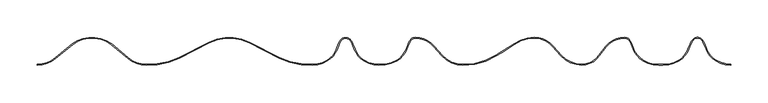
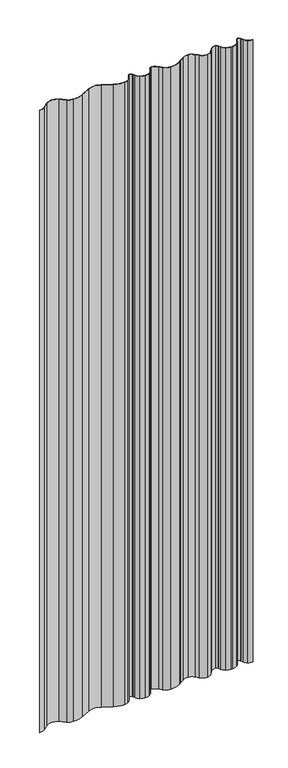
"""IFC4 building model written with IfcOpenShell, lengths in millimetres: plate geometry, Ritmica Vertical 928 : Ritmica Vertical 928."""

from ifc_helpers import new_model, si_unit, frame, origin, place, context, project, spatial, polyline, circle_curve, source, transform, mapped, element, save
from ifc_brep_helpers import plane_surface, cylinder_surface, revolved_surface, advanced_brep


def plate_2c54484f(model_context):
    return source(origin(), model_context, "Body", "AdvancedBrep", [
        advanced_brep(
        [(444.4302446, 6.5092452, 2859.2009216), (431.9836286, 21.2620905, 2859.2009216), (429.1046615, 28.4575337, 2859.2009216), (427.4452979, 31.9226201, 2859.2009216), (411.4637013, 31.9284371, 2859.2009216), (409.8018157, 28.4645596, 2859.2009216), (406.9176114, 21.271214, 2859.2009216), (394.4602592, 6.5274333, 2859.2009216), (373.3665492, 0.7421636, 2859.2009216), (368.0278773, 0.7421636, 2859.2009216), (346.9383844, 6.5447303, 2859.2009216), (334.4917684, 21.2975755, 2859.2009216), (331.6128013, 28.4930188, 2859.2009216), (329.9534377, 31.9581052, 2859.2009216), (321.9644706, 36.992141, 2859.2009216), (296.9888452, 24.9656023, 2859.2009216), (287.4386892, 12.9828793, 2859.2009216), (264.9602063, 1.004862, 2859.2009216), (237.4962028, 13.0090371, 2859.2009216), (226.3924296, 24.9992776, 2859.2009216), (201.4255657, 37.0439944, 2859.2009216), (174.6923281, 28.6299834, 2859.2009216), (157.3593244, 17.4991286, 2859.2009216), (149.9257866, 13.1042873, 2859.2009216), (105.747615, 0.9217598, 2859.2009216), (78.2836116, 12.9259348, 2859.2009216), (67.1798385, 24.9161752, 2859.2009216), (42.2097646, 36.9608925, 2859.2009216), (34.2203451, 31.9326734, 2859.2009216), (32.5584593, 28.4687956, 2859.2009216), (29.674242, 21.2754179, 2859.2009216), (17.2169044, 6.5316705, 2859.2009216), (-6.5461114, 0.8337401, 2859.2009216), (-26.0848579, 6.3430017, 2859.2009216), (-38.5314739, 21.0958469, 2859.2009216), (-41.410441, 28.2912902, 2859.2009216), (-43.0698047, 31.7563766, 2859.2009216), (-59.0514012, 31.7621935, 2859.2009216), (-60.7132869, 28.298316, 2859.2009216), (-63.5974912, 21.1049705, 2859.2009216), (-76.0548434, 6.3611897, 2859.2009216), (-95.5975949, 0.8661531, 2859.2009216), (-139.3425473, 10.0476548, 2859.2009216), (-179.8736188, 30.4443215, 2859.2009216), (-233.7774888, 30.4639414, 2859.2009216), (-274.3233975, 10.0967851, 2859.2009216), (-318.0750221, 0.9471304, 2859.2009216), (-341.83917, 9.5589915, 2859.2009216), (-364.2633956, 28.2547827, 2859.2009216), (-417.1208498, 28.2740218, 2859.2009216), (-439.8609935, 9.5945594, 2859.2009216), (-463.6317682, 1.0000001, 2859.2009216), (-463.6317682, 0.0, 2859.2009216), (-439.2211878, 8.8260227, 2859.2009216), (-416.5014094, 27.488531, 2859.2009216), (-364.8834077, 27.4697431, 2859.2009216), (-342.479535, 8.7909208, 2859.2009216), (-318.0931528, -0.0528589, 2859.2009216), (-273.882295, 9.1992862, 2859.2009216), (-233.3286151, 29.5703462, 2859.2009216), (-180.3231429, 29.5510533, 2859.2009216), (-139.7843031, 9.1504773, 2859.2009216), (-95.5801931, -0.1338492, 2859.2009216), (-75.5333761, 5.5079185, 2859.2009216), (-62.6692321, 20.7330361, 2859.2009216), (-59.7974032, 27.8955168, 2859.2009216), (-58.1497994, 31.3296266, 2859.2009216), (-43.9717211, 31.324466, 2859.2009216), (-42.3266177, 27.8891578, 2859.2009216), (-39.4600035, 20.7245884, 2859.2009216), (-26.6069462, 5.4901103, 2859.2009216), (-6.5788504, -0.1662344, 2859.2009216), (17.7328786, 5.6750431, 2859.2009216), (30.6024869, 20.9034484, 2859.2009216), (33.4743429, 28.0659964, 2859.2009216), (35.1219469, 31.5001063, 2859.2009216), (42.2097628, 35.9608925, 2859.2009216), (66.4203948, 24.2645007, 2859.2009216), (77.5499027, 12.2464708, 2859.2009216), (105.7362544, -0.0782346, 2859.2009216), (150.4460781, 12.2501965, 2859.2009216), (157.8841427, 16.6477141, 2859.2009216), (175.2477974, 27.7982523, 2859.2009216), (201.4270073, 36.0439937, 2859.2009216), (225.6330756, 24.3475061, 2859.2009216), (236.7624939, 12.3295731, 2859.2009216), (264.9598423, 0.0048621, 2859.2009216), (288.2459339, 12.3912758, 2859.2009216), (297.7708595, 24.3423418, 2859.2009216), (321.9641067, 35.9921411, 2859.2009216), (329.0515212, 31.5261946, 2859.2009216), (330.6966247, 28.0908864, 2859.2009216), (333.5638307, 20.9248377, 2859.2009216), (346.4204051, 5.6893005, 2859.2009216), (368.0275134, -0.2558932, 2859.2009216), (373.3663683, -0.2578364, 2859.2009216), (394.9762369, 5.6708079, 2859.2009216), (407.8458704, 20.8992797, 2859.2009216), (410.7176994, 28.0617603, 2859.2009216), (412.3653031, 31.4958701, 2859.2009216), (426.5433815, 31.4907096, 2859.2009216), (428.1884849, 28.0554013, 2859.2009216), (431.0550991, 20.8908319, 2859.2009216), (443.9081563, 5.6563538, 2859.2009216), (463.9686268, -1.63e-05, 2859.2009216), (463.9686268, 0.9999838, 2859.2009216), (444.4302446, 6.5092452, 0.0), (463.9686268, 0.9999838, 0.0), (463.9686268, -1.63e-05, 0.0), (443.9081563, 5.6563538, 0.0), (431.0550991, 20.8908319, 0.0), (428.1884849, 28.0554013, 0.0), (426.5433815, 31.4907096, 0.0), (412.3653031, 31.4958701, 0.0), (410.7176994, 28.0617603, 0.0), (407.8458704, 20.8992797, 0.0), (394.9762369, 5.6708079, 0.0), (373.3663683, -0.2578364, 0.0), (368.0278773, -0.2578364, 0.0), (346.4204051, 5.6893005, 0.0), (333.5638307, 20.9248377, 0.0), (330.6966247, 28.0908864, 0.0), (329.0515212, 31.5261946, 0.0), (321.9641067, 35.9921411, 0.0), (297.7708595, 24.3423418, 0.0), (288.2459339, 12.3912758, 0.0), (264.9598423, 0.0048621, 0.0), (236.7624939, 12.3295731, 0.0), (225.6330756, 24.3475061, 0.0), (201.4270073, 36.0439937, 0.0), (175.2477974, 27.7982523, 0.0), (157.8841427, 16.6477141, 0.0), (150.4460781, 12.2501965, 0.0), (105.7362544, -0.0782346, 0.0), (77.5499027, 12.2464708, 0.0), (66.4203948, 24.2645007, 0.0), (42.2097628, 35.9608925, 0.0), (35.1219469, 31.5001063, 0.0), (33.4743429, 28.0659964, 0.0), (30.6024869, 20.9034484, 0.0), (17.7328786, 5.6750431, 0.0), (-6.5788504, -0.1662344, 0.0), (-26.6069462, 5.4901103, 0.0), (-39.4600035, 20.7245884, 0.0), (-42.3266177, 27.8891578, 0.0), (-43.9717211, 31.324466, 0.0), (-58.1497994, 31.3296266, 0.0), (-59.7974032, 27.8955168, 0.0), (-62.6692321, 20.7330361, 0.0), (-75.5333761, 5.5079185, 0.0), (-95.5801931, -0.1338492, 0.0), (-139.7843031, 9.1504773, 0.0), (-180.3231429, 29.5510533, 0.0), (-233.3286151, 29.5703462, 0.0), (-273.882295, 9.1992862, 0.0), (-318.0931528, -0.0528589, 0.0), (-342.479535, 8.7909208, 0.0), (-364.8834077, 27.4697431, 0.0), (-416.5014094, 27.488531, 0.0), (-439.2211878, 8.8260227, 0.0), (-463.6317682, 0.0, 0.0), (-463.6317682, 1.0000001, 0.0), (-439.8609935, 9.5945594, 0.0), (-417.1208498, 28.2740218, 0.0), (-364.2633956, 28.2547827, 0.0), (-341.83917, 9.5589915, 0.0), (-318.0750221, 0.9471304, 0.0), (-274.3233975, 10.0967851, 0.0), (-233.7774888, 30.4639414, 0.0), (-179.8736188, 30.4443215, 0.0), (-139.3425473, 10.0476548, 0.0), (-95.5975949, 0.8661531, 0.0), (-76.0548434, 6.3611897, 0.0), (-63.5974912, 21.1049705, 0.0), (-60.7132869, 28.298316, 0.0), (-59.0514012, 31.7621935, 0.0), (-43.0698047, 31.7563766, 0.0), (-41.410441, 28.2912902, 0.0), (-38.5314739, 21.0958469, 0.0), (-26.0848579, 6.3430017, 0.0), (-6.5461114, 0.8337401, 0.0), (17.2169044, 6.5316705, 0.0), (29.674242, 21.2754179, 0.0), (32.5584593, 28.4687956, 0.0), (34.2203451, 31.9326734, 0.0), (42.2097646, 36.9608925, 0.0), (67.1798385, 24.9161752, 0.0), (78.2836116, 12.9259348, 0.0), (105.747615, 0.9217598, 0.0), (149.9257866, 13.1042873, 0.0), (157.3593244, 17.4991286, 0.0), (174.6923281, 28.6299834, 0.0), (201.4255657, 37.0439944, 0.0), (226.3924296, 24.9992776, 0.0), (237.4962028, 13.0090371, 0.0), (264.9602063, 1.004862, 0.0), (287.4386892, 12.9828793, 0.0), (296.9888452, 24.9656023, 0.0), (321.9644706, 36.992141, 0.0), (329.9534377, 31.9581052, 0.0), (331.6128013, 28.4930188, 0.0), (334.4917684, 21.2975755, 0.0), (346.9383844, 6.5447303, 0.0), (368.0278773, 0.7441067, 0.0), (373.3665492, 0.7421636, 0.0), (394.4602592, 6.5274333, 0.0), (406.9176114, 21.271214, 0.0), (409.8018157, 28.4645596, 0.0), (411.4637013, 31.9284371, 0.0), (427.4452979, 31.9226201, 0.0), (429.1046615, 28.4575337, 0.0), (431.9836286, 21.2620905, 0.0)],
        [
            (0, 1, circle_curve(frame((460.4148551, 32.6219475, 2859.2009216), z_axis=(0.0, 0.0, -1.0), x_axis=(1.0, 0.0, 0.0)), 30.6166783)),
            (1, 2),
            (2, 3),
            (3, 4, circle_curve(frame((419.4531055, 28.095312, 2859.2009216), z_axis=(0.0, 0.0, 1.0), x_axis=(1.0, 0.0, 0.0)), 8.8613445)),
            (4, 5),
            (5, 6),
            (6, 7, circle_curve(frame((378.4946619, 32.6517648, 2859.2009216), z_axis=(0.0, 0.0, -1.0), x_axis=(1.0, 0.0, 0.0)), 30.6166783)),
            (7, 8, circle_curve(frame((373.381579, 42.0349557, 2859.2009216), z_axis=(0.0, 0.0, -1.0), x_axis=(1.0, 0.0, 0.0)), 41.2927949)),
            (8, 9),
            (9, 10, circle_curve(frame((368.0429071, 42.0368989, 2859.2009216), z_axis=(0.0, 0.0, -1.0), x_axis=(1.0, 0.0, 0.0)), 41.2927949)),
            (10, 11, circle_curve(frame((363.1637949, 32.8605896, 2859.2009216), z_axis=(0.0, 0.0, -1.0), x_axis=(1.0, 0.0, 0.0)), 30.9158276)),
            (11, 12),
            (12, 13),
            (13, 14, circle_curve(frame((321.9612453, 28.130797, 2859.2009216), z_axis=(0.0, 0.0, 1.0), x_axis=(1.0, 0.0, 0.0)), 8.8613445)),
            (14, 15, circle_curve(frame((321.9528514, 5.069444, 2859.2009216), z_axis=(0.0, 0.0, 1.0), x_axis=(1.0, 0.0, 0.0)), 31.9226992)),
            (15, 16),
            (16, 17, circle_curve(frame((264.9700565, 28.0674484, 2859.2009216), z_axis=(0.0, 0.0, -1.0), x_axis=(1.0, 0.0, 0.0)), 27.0625882)),
            (17, 18, circle_curve(frame((264.9738374, 38.455184, 2859.2009216), z_axis=(0.0, 0.0, -1.0), x_axis=(1.0, 0.0, 0.0)), 37.4503244)),
            (18, 19),
            (19, 20, circle_curve(frame((201.4139464, 5.1212973, 2859.2009216), z_axis=(0.0, 0.0, 1.0), x_axis=(1.0, 0.0, 0.0)), 31.9226992)),
            (20, 21, circle_curve(frame((201.5791622, -10.119828, 2859.2009216), z_axis=(0.0, 0.0, 1.0), x_axis=(1.0, 0.0, 0.0)), 47.1640725)),
            (21, 22),
            (22, 23),
            (23, 24, circle_curve(frame((107.5247522, 80.6713634, 2859.2009216), z_axis=(0.0, 0.0, -1.0), x_axis=(1.0, 0.0, 0.0)), 79.769402)),
            (24, 25, circle_curve(frame((105.7612462, 38.3720817, 2859.2009216), z_axis=(0.0, 0.0, -1.0), x_axis=(1.0, 0.0, 0.0)), 37.4503244)),
            (25, 26),
            (26, 27, circle_curve(frame((42.2097086, 5.0555108, 2859.2009216), z_axis=(0.0, 0.0, 1.0), x_axis=(1.0, 0.0, 0.0)), 31.9053816)),
            (27, 28, circle_curve(frame((42.209749, 28.099548, 2859.2009216), z_axis=(0.0, 0.0, 1.0), x_axis=(1.0, 0.0, 0.0)), 8.8613444)),
            (28, 29),
            (29, 30),
            (30, 31, circle_curve(frame((1.2513055, 32.656001, 2859.2009216), z_axis=(0.0, 0.0, -1.0), x_axis=(1.0, 0.0, 0.0)), 30.6166783)),
            (31, 32, circle_curve(frame((-3.8617775, 42.0391919, 2859.2009216), z_axis=(0.0, 0.0, -1.0), x_axis=(1.0, 0.0, 0.0)), 41.2927948)),
            (32, 33, circle_curve(frame((-6.5324806, 38.2840621, 2859.2009216), z_axis=(0.0, 0.0, -1.0), x_axis=(1.0, 0.0, 0.0)), 37.4503244)),
            (33, 34, circle_curve(frame((-10.1002475, 32.4557039, 2859.2009216), z_axis=(0.0, 0.0, -1.0), x_axis=(1.0, 0.0, 0.0)), 30.6166783)),
            (34, 35),
            (35, 36),
            (36, 37, circle_curve(frame((-51.0619971, 27.9290684, 2859.2009216), z_axis=(0.0, 0.0, 1.0), x_axis=(1.0, 0.0, 0.0)), 8.8613445)),
            (37, 38),
            (38, 39),
            (39, 40, circle_curve(frame((-92.0204406, 32.4855212, 2859.2009216), z_axis=(0.0, 0.0, -1.0), x_axis=(1.0, 0.0, 0.0)), 30.6166783)),
            (40, 41, circle_curve(frame((-95.5839638, 38.316475, 2859.2009216), z_axis=(0.0, 0.0, -1.0), x_axis=(1.0, 0.0, 0.0)), 37.4503244)),
            (41, 42, circle_curve(frame((-98.8645428, 94.1023106, 2859.2009216), z_axis=(0.0, 0.0, -1.0), x_axis=(1.0, 0.0, 0.0)), 93.293376)),
            (42, 43),
            (43, 44, circle_curve(frame((-206.8450653, -23.1517705, 2859.2009216), z_axis=(0.0, 0.0, 1.0), x_axis=(1.0, 0.0, 0.0)), 60.0)),
            (44, 45),
            (45, 46, circle_curve(frame((-314.7402029, 94.180885, 2859.2009216), z_axis=(0.0, 0.0, -1.0), x_axis=(1.0, 0.0, 0.0)), 93.293376)),
            (46, 47, circle_curve(frame((-318.061507, 38.0785482, 2859.2009216), z_axis=(0.0, 0.0, -1.0), x_axis=(1.0, 0.0, 0.0)), 37.1314203)),
            (47, 48),
            (48, 49, circle_curve(frame((-390.7049909, -7.0897704, 2859.2009216), z_axis=(0.0, 0.0, 1.0), x_axis=(1.0, 0.0, 0.0)), 44.1406321)),
            (49, 50),
            (50, 51, circle_curve(frame((-463.6178891, 38.1314178, 2859.2009216), z_axis=(0.0, 0.0, -1.0), x_axis=(1.0, 0.0, 0.0)), 37.1314203)),
            (51, 52),
            (52, 53, circle_curve(frame((-463.6178891, 38.1314178, 2859.2009216), z_axis=(0.0, 0.0, 1.0), x_axis=(1.0, 0.0, 0.0)), 38.1314203)),
            (53, 54),
            (54, 55, circle_curve(frame((-390.7049909, -7.0897704, 2859.2009216), z_axis=(0.0, 0.0, -1.0), x_axis=(1.0, 0.0, 0.0)), 43.1406321)),
            (55, 56),
            (56, 57, circle_curve(frame((-318.061507, 38.0785482, 2859.2009216), z_axis=(0.0, 0.0, 1.0), x_axis=(1.0, 0.0, 0.0)), 38.1314203)),
            (57, 58, circle_curve(frame((-314.7402029, 94.180885, 2859.2009216), z_axis=(0.0, 0.0, 1.0), x_axis=(1.0, 0.0, 0.0)), 94.293376)),
            (58, 59),
            (59, 60, circle_curve(frame((-206.8450653, -23.1517705, 2859.2009216), z_axis=(0.0, 0.0, -1.0), x_axis=(1.0, 0.0, 0.0)), 59.0)),
            (60, 61),
            (61, 62, circle_curve(frame((-98.8645428, 94.1023106, 2859.2009216), z_axis=(0.0, 0.0, 1.0), x_axis=(1.0, 0.0, 0.0)), 94.293376)),
            (62, 63, circle_curve(frame((-95.5839638, 38.316475, 2859.2009216), z_axis=(0.0, 0.0, 1.0), x_axis=(1.0, 0.0, 0.0)), 38.4503244)),
            (63, 64, circle_curve(frame((-92.0204406, 32.4855212, 2859.2009216), z_axis=(0.0, 0.0, 1.0), x_axis=(1.0, 0.0, 0.0)), 31.6166783)),
            (64, 65),
            (65, 66),
            (66, 67, circle_curve(frame((-51.0619971, 27.9290684, 2859.2009216), z_axis=(0.0, 0.0, -1.0), x_axis=(1.0, 0.0, 0.0)), 7.8613445)),
            (67, 68),
            (68, 69),
            (69, 70, circle_curve(frame((-10.1002475, 32.4557039, 2859.2009216), z_axis=(0.0, 0.0, 1.0), x_axis=(1.0, 0.0, 0.0)), 31.6166783)),
            (70, 71, circle_curve(frame((-6.5324806, 38.2840621, 2859.2009216), z_axis=(0.0, 0.0, 1.0), x_axis=(1.0, 0.0, 0.0)), 38.4503244)),
            (71, 72, circle_curve(frame((-3.8617775, 42.0391919, 2859.2009216), z_axis=(0.0, 0.0, 1.0), x_axis=(1.0, 0.0, 0.0)), 42.2927948)),
            (72, 73, circle_curve(frame((1.2513055, 32.656001, 2859.2009216), z_axis=(0.0, 0.0, 1.0), x_axis=(1.0, 0.0, 0.0)), 31.6166782)),
            (73, 74),
            (74, 75),
            (75, 76, circle_curve(frame((42.209749, 28.099548, 2859.2009216), z_axis=(0.0, 0.0, -1.0), x_axis=(1.0, 0.0, 0.0)), 7.8613444)),
            (76, 77, circle_curve(frame((42.2097086, 5.0555108, 2859.2009216), z_axis=(0.0, 0.0, -1.0), x_axis=(1.0, 0.0, 0.0)), 30.9053816)),
            (77, 78),
            (78, 79, circle_curve(frame((105.7612462, 38.3720817, 2859.2009216), z_axis=(0.0, 0.0, 1.0), x_axis=(1.0, 0.0, 0.0)), 38.4503244)),
            (79, 80, circle_curve(frame((107.5247522, 80.6713634, 2859.2009216), z_axis=(0.0, 0.0, 1.0), x_axis=(1.0, 0.0, 0.0)), 80.769402)),
            (80, 81),
            (81, 82),
            (82, 83, circle_curve(frame((201.5791622, -10.119828, 2859.2009216), z_axis=(0.0, 0.0, -1.0), x_axis=(1.0, 0.0, 0.0)), 46.1640725)),
            (83, 84, circle_curve(frame((201.4139464, 5.1212973, 2859.2009216), z_axis=(0.0, 0.0, -1.0), x_axis=(1.0, 0.0, 0.0)), 30.9226992)),
            (84, 85),
            (85, 86, circle_curve(frame((264.9738374, 38.455184, 2859.2009216), z_axis=(0.0, 0.0, 1.0), x_axis=(1.0, 0.0, 0.0)), 38.4503244)),
            (86, 87, circle_curve(frame((264.9700565, 28.0674484, 2859.2009216), z_axis=(0.0, 0.0, 1.0), x_axis=(1.0, 0.0, 0.0)), 28.0625882)),
            (87, 88),
            (88, 89, circle_curve(frame((321.9528514, 5.069444, 2859.2009216), z_axis=(0.0, 0.0, -1.0), x_axis=(1.0, 0.0, 0.0)), 30.9226992)),
            (89, 90, circle_curve(frame((321.9612453, 28.130797, 2859.2009216), z_axis=(0.0, 0.0, -1.0), x_axis=(1.0, 0.0, 0.0)), 7.8613445)),
            (90, 91),
            (91, 92),
            (92, 93, circle_curve(frame((363.1637949, 32.8605896, 2859.2009216), z_axis=(0.0, 0.0, 1.0), x_axis=(1.0, 0.0, 0.0)), 31.9158276)),
            (93, 94, circle_curve(frame((368.0429071, 42.0368989, 2859.2009216), z_axis=(0.0, 0.0, 1.0), x_axis=(1.0, 0.0, 0.0)), 42.2927949)),
            (94, 95),
            (95, 96, circle_curve(frame((373.381579, 42.0349557, 2859.2009216), z_axis=(0.0, 0.0, 1.0), x_axis=(1.0, 0.0, 0.0)), 42.2927949)),
            (96, 97, circle_curve(frame((378.4946619, 32.6517648, 2859.2009216), z_axis=(0.0, 0.0, 1.0), x_axis=(1.0, 0.0, 0.0)), 31.6166783)),
            (97, 98),
            (98, 99),
            (99, 100, circle_curve(frame((419.4531055, 28.095312, 2859.2009216), z_axis=(0.0, 0.0, -1.0), x_axis=(1.0, 0.0, 0.0)), 7.8613445)),
            (100, 101),
            (101, 102),
            (102, 103, circle_curve(frame((460.4148551, 32.6219475, 2859.2009216), z_axis=(0.0, 0.0, 1.0), x_axis=(1.0, 0.0, 0.0)), 31.6166783)),
            (103, 104, circle_curve(frame((463.982622, 38.4503056, 2859.2009216), z_axis=(0.0, 0.0, 1.0), x_axis=(1.0, 0.0, 0.0)), 38.4503244)),
            (104, 105),
            (105, 0, circle_curve(frame((463.982622, 38.4503056, 2859.2009216), z_axis=(0.0, 0.0, -1.0), x_axis=(1.0, 0.0, 0.0)), 37.4503244)),
            (106, 107, circle_curve(frame((463.982622, 38.4503056, 0.0), z_axis=(0.0, 0.0, 1.0), x_axis=(1.0, 0.0, 0.0)), 37.4503244)),
            (107, 108),
            (108, 109, circle_curve(frame((463.982622, 38.4503056, 0.0), z_axis=(0.0, 0.0, -1.0), x_axis=(1.0, 0.0, 0.0)), 38.4503244)),
            (109, 110, circle_curve(frame((460.4148551, 32.6219475, 0.0), z_axis=(0.0, 0.0, -1.0), x_axis=(1.0, 0.0, 0.0)), 31.6166783)),
            (110, 111),
            (111, 112),
            (112, 113, circle_curve(frame((419.4531055, 28.095312, 0.0), z_axis=(0.0, 0.0, 1.0), x_axis=(1.0, 0.0, 0.0)), 7.8613445)),
            (113, 114),
            (114, 115),
            (115, 116, circle_curve(frame((378.4946619, 32.6517648, 0.0), z_axis=(0.0, 0.0, -1.0), x_axis=(1.0, 0.0, 0.0)), 31.6166783)),
            (116, 117, circle_curve(frame((373.381579, 42.0349557, 0.0), z_axis=(0.0, 0.0, -1.0), x_axis=(1.0, 0.0, 0.0)), 42.2927949)),
            (117, 118),
            (118, 119, circle_curve(frame((368.0429071, 42.0368989, 0.0), z_axis=(0.0, 0.0, -1.0), x_axis=(1.0, 0.0, 0.0)), 42.2927949)),
            (119, 120, circle_curve(frame((363.1637949, 32.8605896, 0.0), z_axis=(0.0, 0.0, -1.0), x_axis=(1.0, 0.0, 0.0)), 31.9158276)),
            (120, 121),
            (121, 122),
            (122, 123, circle_curve(frame((321.9612453, 28.130797, 0.0), z_axis=(0.0, 0.0, 1.0), x_axis=(1.0, 0.0, 0.0)), 7.8613445)),
            (123, 124, circle_curve(frame((321.9528514, 5.069444, 0.0), z_axis=(0.0, 0.0, 1.0), x_axis=(1.0, 0.0, 0.0)), 30.9226992)),
            (124, 125),
            (125, 126, circle_curve(frame((264.9700565, 28.0674484, 0.0), z_axis=(0.0, 0.0, -1.0), x_axis=(1.0, 0.0, 0.0)), 28.0625882)),
            (126, 127, circle_curve(frame((264.9738374, 38.455184, 0.0), z_axis=(0.0, 0.0, -1.0), x_axis=(1.0, 0.0, 0.0)), 38.4503244)),
            (127, 128),
            (128, 129, circle_curve(frame((201.4139464, 5.1212973, 0.0), z_axis=(0.0, 0.0, 1.0), x_axis=(1.0, 0.0, 0.0)), 30.9226992)),
            (129, 130, circle_curve(frame((201.5791622, -10.119828, 0.0), z_axis=(0.0, 0.0, 1.0), x_axis=(1.0, 0.0, 0.0)), 46.1640725)),
            (130, 131),
            (131, 132),
            (132, 133, circle_curve(frame((107.5247522, 80.6713634, 0.0), z_axis=(0.0, 0.0, -1.0), x_axis=(1.0, 0.0, 0.0)), 80.769402)),
            (133, 134, circle_curve(frame((105.7612462, 38.3720817, 0.0), z_axis=(0.0, 0.0, -1.0), x_axis=(1.0, 0.0, 0.0)), 38.4503244)),
            (134, 135),
            (135, 136, circle_curve(frame((42.2097086, 5.0555108, 0.0), z_axis=(0.0, 0.0, 1.0), x_axis=(1.0, 0.0, 0.0)), 30.9053816)),
            (136, 137, circle_curve(frame((42.209749, 28.099548, 0.0), z_axis=(0.0, 0.0, 1.0), x_axis=(1.0, 0.0, 0.0)), 7.8613444)),
            (137, 138),
            (138, 139),
            (139, 140, circle_curve(frame((1.2513055, 32.656001, 0.0), z_axis=(0.0, 0.0, -1.0), x_axis=(1.0, 0.0, 0.0)), 31.6166782)),
            (140, 141, circle_curve(frame((-3.8617775, 42.0391919, 0.0), z_axis=(0.0, 0.0, -1.0), x_axis=(1.0, 0.0, 0.0)), 42.2927948)),
            (141, 142, circle_curve(frame((-6.5324806, 38.2840621, 0.0), z_axis=(0.0, 0.0, -1.0), x_axis=(1.0, 0.0, 0.0)), 38.4503244)),
            (142, 143, circle_curve(frame((-10.1002475, 32.4557039, 0.0), z_axis=(0.0, 0.0, -1.0), x_axis=(1.0, 0.0, 0.0)), 31.6166783)),
            (143, 144),
            (144, 145),
            (145, 146, circle_curve(frame((-51.0619971, 27.9290684, 0.0), z_axis=(0.0, 0.0, 1.0), x_axis=(1.0, 0.0, 0.0)), 7.8613445)),
            (146, 147),
            (147, 148),
            (148, 149, circle_curve(frame((-92.0204406, 32.4855212, 0.0), z_axis=(0.0, 0.0, -1.0), x_axis=(1.0, 0.0, 0.0)), 31.6166783)),
            (149, 150, circle_curve(frame((-95.5839638, 38.316475, 0.0), z_axis=(0.0, 0.0, -1.0), x_axis=(1.0, 0.0, 0.0)), 38.4503244)),
            (150, 151, circle_curve(frame((-98.8645428, 94.1023106, 0.0), z_axis=(0.0, 0.0, -1.0), x_axis=(1.0, 0.0, 0.0)), 94.293376)),
            (151, 152),
            (152, 153, circle_curve(frame((-206.8450653, -23.1517705, 0.0), z_axis=(0.0, 0.0, 1.0), x_axis=(1.0, 0.0, 0.0)), 59.0)),
            (153, 154),
            (154, 155, circle_curve(frame((-314.7402029, 94.180885, 0.0), z_axis=(0.0, 0.0, -1.0), x_axis=(1.0, 0.0, 0.0)), 94.293376)),
            (155, 156, circle_curve(frame((-318.061507, 38.0785482, 0.0), z_axis=(0.0, 0.0, -1.0), x_axis=(1.0, 0.0, 0.0)), 38.1314203)),
            (156, 157),
            (157, 158, circle_curve(frame((-390.7049909, -7.0897704, 0.0), z_axis=(0.0, 0.0, 1.0), x_axis=(1.0, 0.0, 0.0)), 43.1406321)),
            (158, 159),
            (159, 160, circle_curve(frame((-463.6178891, 38.1314178, 0.0), z_axis=(0.0, 0.0, -1.0), x_axis=(1.0, 0.0, 0.0)), 38.1314203)),
            (160, 161),
            (161, 162, circle_curve(frame((-463.6178891, 38.1314178, 0.0), z_axis=(0.0, 0.0, 1.0), x_axis=(1.0, 0.0, 0.0)), 37.1314203)),
            (162, 163),
            (163, 164, circle_curve(frame((-390.7049909, -7.0897704, 0.0), z_axis=(0.0, 0.0, -1.0), x_axis=(1.0, 0.0, 0.0)), 44.1406321)),
            (164, 165),
            (165, 166, circle_curve(frame((-318.061507, 38.0785482, 0.0), z_axis=(0.0, 0.0, 1.0), x_axis=(1.0, 0.0, 0.0)), 37.1314203)),
            (166, 167, circle_curve(frame((-314.7402029, 94.180885, 0.0), z_axis=(0.0, 0.0, 1.0), x_axis=(1.0, 0.0, 0.0)), 93.293376)),
            (167, 168),
            (168, 169, circle_curve(frame((-206.8450653, -23.1517705, 0.0), z_axis=(0.0, 0.0, -1.0), x_axis=(1.0, 0.0, 0.0)), 60.0)),
            (169, 170),
            (170, 171, circle_curve(frame((-98.8645428, 94.1023106, 0.0), z_axis=(0.0, 0.0, 1.0), x_axis=(1.0, 0.0, 0.0)), 93.293376)),
            (171, 172, circle_curve(frame((-95.5839638, 38.316475, 0.0), z_axis=(0.0, 0.0, 1.0), x_axis=(1.0, 0.0, 0.0)), 37.4503244)),
            (172, 173, circle_curve(frame((-92.0204406, 32.4855212, 0.0), z_axis=(0.0, 0.0, 1.0), x_axis=(1.0, 0.0, 0.0)), 30.6166783)),
            (173, 174),
            (174, 175),
            (175, 176, circle_curve(frame((-51.0619971, 27.9290684, 0.0), z_axis=(0.0, 0.0, -1.0), x_axis=(1.0, 0.0, 0.0)), 8.8613445)),
            (176, 177),
            (177, 178),
            (178, 179, circle_curve(frame((-10.1002475, 32.4557039, 0.0), z_axis=(0.0, 0.0, 1.0), x_axis=(1.0, 0.0, 0.0)), 30.6166783)),
            (179, 180, circle_curve(frame((-6.5324806, 38.2840621, 0.0), z_axis=(0.0, 0.0, 1.0), x_axis=(1.0, 0.0, 0.0)), 37.4503244)),
            (180, 181, circle_curve(frame((-3.8617775, 42.0391919, 0.0), z_axis=(0.0, 0.0, 1.0), x_axis=(1.0, 0.0, 0.0)), 41.2927948)),
            (181, 182, circle_curve(frame((1.2513055, 32.656001, 0.0), z_axis=(0.0, 0.0, 1.0), x_axis=(1.0, 0.0, 0.0)), 30.6166783)),
            (182, 183),
            (183, 184),
            (184, 185, circle_curve(frame((42.209749, 28.099548, 0.0), z_axis=(0.0, 0.0, -1.0), x_axis=(1.0, 0.0, 0.0)), 8.8613444)),
            (185, 186, circle_curve(frame((42.2097086, 5.0555108, 0.0), z_axis=(0.0, 0.0, -1.0), x_axis=(1.0, 0.0, 0.0)), 31.9053816)),
            (186, 187),
            (187, 188, circle_curve(frame((105.7612462, 38.3720817, 0.0), z_axis=(0.0, 0.0, 1.0), x_axis=(1.0, 0.0, 0.0)), 37.4503244)),
            (188, 189, circle_curve(frame((107.5247522, 80.6713634, 0.0), z_axis=(0.0, 0.0, 1.0), x_axis=(1.0, 0.0, 0.0)), 79.769402)),
            (189, 190),
            (190, 191),
            (191, 192, circle_curve(frame((201.5791622, -10.119828, 0.0), z_axis=(0.0, 0.0, -1.0), x_axis=(1.0, 0.0, 0.0)), 47.1640725)),
            (192, 193, circle_curve(frame((201.4139464, 5.1212973, 0.0), z_axis=(0.0, 0.0, -1.0), x_axis=(1.0, 0.0, 0.0)), 31.9226992)),
            (193, 194),
            (194, 195, circle_curve(frame((264.9738374, 38.455184, 0.0), z_axis=(0.0, 0.0, 1.0), x_axis=(1.0, 0.0, 0.0)), 37.4503244)),
            (195, 196, circle_curve(frame((264.9700565, 28.0674484, 0.0), z_axis=(0.0, 0.0, 1.0), x_axis=(1.0, 0.0, 0.0)), 27.0625882)),
            (196, 197),
            (197, 198, circle_curve(frame((321.9528514, 5.069444, 0.0), z_axis=(0.0, 0.0, -1.0), x_axis=(1.0, 0.0, 0.0)), 31.9226992)),
            (198, 199, circle_curve(frame((321.9612453, 28.130797, 0.0), z_axis=(0.0, 0.0, -1.0), x_axis=(1.0, 0.0, 0.0)), 8.8613445)),
            (199, 200),
            (200, 201),
            (201, 202, circle_curve(frame((363.1637949, 32.8605896, 0.0), z_axis=(0.0, 0.0, 1.0), x_axis=(1.0, 0.0, 0.0)), 30.9158276)),
            (202, 203, circle_curve(frame((368.0429071, 42.0368989, 0.0), z_axis=(0.0, 0.0, 1.0), x_axis=(1.0, 0.0, 0.0)), 41.2927949)),
            (203, 204),
            (204, 205, circle_curve(frame((373.381579, 42.0349557, 0.0), z_axis=(0.0, 0.0, 1.0), x_axis=(1.0, 0.0, 0.0)), 41.2927949)),
            (205, 206, circle_curve(frame((378.4946619, 32.6517648, 0.0), z_axis=(0.0, 0.0, 1.0), x_axis=(1.0, 0.0, 0.0)), 30.6166783)),
            (206, 207),
            (207, 208),
            (208, 209, circle_curve(frame((419.4531055, 28.095312, 0.0), z_axis=(0.0, 0.0, -1.0), x_axis=(1.0, 0.0, 0.0)), 8.8613445)),
            (209, 210),
            (210, 211),
            (211, 106, circle_curve(frame((460.4148551, 32.6219475, 0.0), z_axis=(0.0, 0.0, 1.0), x_axis=(1.0, 0.0, 0.0)), 30.6166783)),
            (0, 106),
            (211, 1),
            (210, 2),
            (209, 3),
            (208, 4),
            (207, 5),
            (206, 6),
            (205, 7),
            (204, 8),
            (203, 9),
            (202, 10),
            (201, 11),
            (200, 12),
            (199, 13),
            (198, 14),
            (197, 15),
            (196, 16),
            (195, 17),
            (194, 18),
            (193, 19),
            (192, 20),
            (191, 21),
            (190, 22),
            (189, 23),
            (188, 24),
            (187, 25),
            (186, 26),
            (185, 27),
            (184, 28),
            (183, 29),
            (182, 30),
            (181, 31),
            (180, 32),
            (179, 33),
            (178, 34),
            (177, 35),
            (176, 36),
            (175, 37),
            (174, 38),
            (173, 39),
            (172, 40),
            (171, 41),
            (170, 42),
            (169, 43),
            (168, 44),
            (167, 45),
            (166, 46),
            (165, 47),
            (164, 48),
            (163, 49),
            (162, 50),
            (161, 51),
            (160, 52),
            (159, 53),
            (158, 54),
            (157, 55),
            (156, 56),
            (155, 57),
            (154, 58),
            (153, 59),
            (152, 60),
            (151, 61),
            (150, 62),
            (149, 63),
            (148, 64),
            (147, 65),
            (146, 66),
            (145, 67),
            (144, 68),
            (143, 69),
            (142, 70),
            (141, 71),
            (140, 72),
            (139, 73),
            (138, 74),
            (137, 75),
            (136, 76),
            (135, 77),
            (134, 78),
            (133, 79),
            (132, 80),
            (131, 81),
            (130, 82),
            (129, 83),
            (128, 84),
            (127, 85),
            (126, 86),
            (125, 87),
            (124, 88),
            (123, 89),
            (122, 90),
            (121, 91),
            (120, 92),
            (119, 93),
            (118, 94),
            (117, 95),
            (116, 96),
            (115, 97),
            (114, 98),
            (113, 99),
            (112, 100),
            (111, 101),
            (110, 102),
            (109, 103),
            (108, 104),
            (107, 105),
        ],
        [
            plane_surface(frame((491.0315334, 32.6219475, 2859.2009216), z_axis=(0.0, 0.0, 1.0), x_axis=(0.0, -1.0, 0.0))),
            plane_surface(frame((491.0315334, 32.6219475, 0.0), z_axis=(0.0, 0.0, -1.0), x_axis=(0.0, 1.0, 0.0))),
            revolved_surface(polyline([(491.0315334, 32.6219475, 0.0), (491.0315334, 32.6219475, 2859.2009216)]), (460.4148551, 32.6219475, 0.0), (0.0, 0.0, -1.0)),
            plane_surface(frame((431.9836286, 21.2620905, 2859.2009216), z_axis=(0.9284415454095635, 0.3714785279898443, 0.0), x_axis=(0.0, 0.0, -1.0))),
            plane_surface(frame((429.1046615, 28.4575337, 2859.2009216), z_axis=(0.901916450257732, 0.4319105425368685, 0.0), x_axis=(0.0, 0.0, -1.0))),
            cylinder_surface(frame((419.4531055, 28.095312, 0.0), z_axis=(0.0, 0.0, 1.0), x_axis=(1.0, 0.0, 0.0)), 8.8613445),
            plane_surface(frame((411.4637013, 31.9284371, 2859.2009216), z_axis=(-0.9016017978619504, 0.4325669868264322, 0.0), x_axis=(0.0, 0.0, -1.0))),
            plane_surface(frame((409.8018157, 28.4645596, 2859.2009216), z_axis=(-0.9281708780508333, 0.37215429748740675, 0.0), x_axis=(0.0, 0.0, -1.0))),
            revolved_surface(polyline([(409.1113402, 32.6517648, 0.0), (409.1113402, 32.6517648, 2859.2009216)]), (378.4946619, 32.6517648, 0.0), (0.0, 0.0, -1.0)),
            revolved_surface(polyline([(414.6743739, 42.0349557, 0.0), (414.6743739, 42.0349557, 2859.2009216)]), (373.381579, 42.0349557, 0.0), (0.0, 0.0, -1.0)),
            plane_surface(frame((373.3665492, 0.7421636, 2859.2009216), z_axis=(0.0, 1.0, 0.0), x_axis=(0.0, 0.0, -1.0))),
            revolved_surface(polyline([(409.33570199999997, 42.0368989, 0.0), (409.33570199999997, 42.0368989, 2859.2009216)]), (368.0429071, 42.0368989, 0.0), (0.0, 0.0, -1.0)),
            revolved_surface(polyline([(394.0796225, 32.8605896, 0.0), (394.0796225, 32.8605896, 2859.2009216)]), (363.1637949, 32.8605896, 0.0), (0.0, 0.0, -1.0)),
            plane_surface(frame((334.4917684, 21.2975755, 2859.2009216), z_axis=(0.9284415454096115, 0.37147852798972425, 0.0), x_axis=(0.0, 0.0, -1.0))),
            plane_surface(frame((331.6128013, 28.4930188, 2859.2009216), z_axis=(0.901916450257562, 0.4319105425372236, 0.0), x_axis=(0.0, 0.0, -1.0))),
            cylinder_surface(frame((321.9612453, 28.130797, 0.0), z_axis=(0.0, 0.0, 1.0), x_axis=(1.0, 0.0, 0.0)), 8.8613445),
            cylinder_surface(frame((321.9528514, 5.069444, 0.0), z_axis=(0.0, 0.0, 1.0), x_axis=(1.0, 0.0, 0.0)), 31.9226992),
            plane_surface(frame((296.9888452, 24.9656023, 2859.2009216), z_axis=(-0.7820142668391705, 0.6232605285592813, 0.0), x_axis=(0.0, 0.0, -1.0))),
            revolved_surface(polyline([(292.0326447, 28.0674484, 0.0), (292.0326447, 28.0674484, 2859.2009216)]), (264.9700565, 28.0674484, 0.0), (0.0, 0.0, -1.0)),
            revolved_surface(polyline([(302.4241618, 38.455184, 0.0), (302.4241618, 38.455184, 2859.2009216)]), (264.9738374, 38.455184, 0.0), (0.0, 0.0, -1.0)),
            plane_surface(frame((237.4962028, 13.0090371, 2859.2009216), z_axis=(0.7337088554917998, 0.6794639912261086, 0.0), x_axis=(0.0, 0.0, -1.0))),
            cylinder_surface(frame((201.4139464, 5.1212973, 0.0), z_axis=(0.0, 0.0, 1.0), x_axis=(1.0, 0.0, 0.0)), 31.9226992),
            cylinder_surface(frame((201.5791622, -10.119828, 0.0), z_axis=(0.0, 0.0, 1.0), x_axis=(1.0, 0.0, 0.0)), 47.1640725),
            plane_surface(frame((174.6923281, 28.6299834, 2859.2009216), z_axis=(-0.5403525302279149, 0.8414387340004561, 0.0), x_axis=(0.0, 0.0, -1.0))),
            plane_surface(frame((157.3593244, 17.4991286, 2859.2009216), z_axis=(-0.508926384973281, 0.8608100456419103, 0.0), x_axis=(0.0, 0.0, -1.0))),
            revolved_surface(polyline([(187.29415419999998, 80.6713634, 0.0), (187.29415419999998, 80.6713634, 2859.2009216)]), (107.5247522, 80.6713634, 0.0), (0.0, 0.0, -1.0)),
            revolved_surface(polyline([(143.21157060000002, 38.3720817, 0.0), (143.21157060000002, 38.3720817, 2859.2009216)]), (105.7612462, 38.3720817, 0.0), (0.0, 0.0, -1.0)),
            plane_surface(frame((78.2836116, 12.9259348, 2859.2009216), z_axis=(0.7337088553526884, 0.679463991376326, 0.0), x_axis=(0.0, 0.0, -1.0))),
            cylinder_surface(frame((42.2097086, 5.0555108, 0.0), z_axis=(0.0, 0.0, 1.0), x_axis=(1.0, 0.0, 0.0)), 31.9053816),
            cylinder_surface(frame((42.209749, 28.099548, 0.0), z_axis=(0.0, 0.0, 1.0), x_axis=(1.0, 0.0, 0.0)), 8.8613444),
            plane_surface(frame((34.2203451, 31.9326734, 2859.2009216), z_axis=(-0.901601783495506, 0.4325670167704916, 0.0), x_axis=(0.0, 0.0, -1.0))),
            plane_surface(frame((32.5584593, 28.4687956, 2859.2009216), z_axis=(-0.9281708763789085, 0.3721543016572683, 0.0), x_axis=(0.0, 0.0, -1.0))),
            revolved_surface(polyline([(31.8679838, 32.656001, 0.0), (31.8679838, 32.656001, 2859.2009216)]), (1.2513055, 32.656001, 0.0), (0.0, 0.0, -1.0)),
            revolved_surface(polyline([(37.4310173, 42.0391919, 0.0), (37.4310173, 42.0391919, 2859.2009216)]), (-3.8617775, 42.0391919, 0.0), (0.0, 0.0, -1.0)),
            revolved_surface(polyline([(30.9178438, 38.2840621, 0.0), (30.9178438, 38.2840621, 2859.2009216)]), (-6.5324806, 38.2840621, 0.0), (0.0, 0.0, -1.0)),
            revolved_surface(polyline([(20.516430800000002, 32.4557039, 0.0), (20.516430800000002, 32.4557039, 2859.2009216)]), (-10.1002475, 32.4557039, 0.0), (0.0, 0.0, -1.0)),
            plane_surface(frame((-38.5314739, 21.0958469, 2859.2009216), z_axis=(0.9284415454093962, 0.37147852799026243, 0.0), x_axis=(0.0, 0.0, -1.0))),
            plane_surface(frame((-41.410441, 28.2912902, 2859.2009216), z_axis=(0.9019164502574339, 0.4319105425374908, 0.0), x_axis=(0.0, 0.0, -1.0))),
            cylinder_surface(frame((-51.0619971, 27.9290684, 0.0), z_axis=(0.0, 0.0, 1.0), x_axis=(1.0, 0.0, 0.0)), 8.8613445),
            plane_surface(frame((-59.0514012, 31.7621935, 2859.2009216), z_axis=(-0.90160179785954, 0.4325669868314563, 0.0), x_axis=(0.0, 0.0, -1.0))),
            plane_surface(frame((-60.7132869, 28.298316, 2859.2009216), z_axis=(-0.9281708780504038, 0.37215429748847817, 0.0), x_axis=(0.0, 0.0, -1.0))),
            revolved_surface(polyline([(-61.4037623, 32.4855212, 0.0), (-61.4037623, 32.4855212, 2859.2009216)]), (-92.0204406, 32.4855212, 0.0), (0.0, 0.0, -1.0)),
            revolved_surface(polyline([(-58.13363940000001, 38.316475, 0.0), (-58.13363940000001, 38.316475, 2859.2009216)]), (-95.5839638, 38.316475, 0.0), (0.0, 0.0, -1.0)),
            revolved_surface(polyline([(-5.5711668, 94.1023106, 0.0), (-5.5711668, 94.1023106, 2859.2009216)]), (-98.8645428, 94.1023106, 0.0), (0.0, 0.0, -1.0)),
            plane_surface(frame((-139.3425473, 10.0476548, 2859.2009216), z_axis=(0.4495241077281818, 0.8932681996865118, 0.0), x_axis=(0.0, 0.0, -1.0))),
            cylinder_surface(frame((-206.8450653, -23.1517705, 0.0), z_axis=(0.0, 0.0, 1.0), x_axis=(1.0, 0.0, 0.0)), 60.0),
            plane_surface(frame((-233.7774888, 30.4639414, 2859.2009216), z_axis=(-0.44887372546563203, 0.8935951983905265, 0.0), x_axis=(0.0, 0.0, -1.0))),
            revolved_surface(polyline([(-221.4468269, 94.180885, 0.0), (-221.4468269, 94.180885, 2859.2009216)]), (-314.7402029, 94.180885, 0.0), (0.0, 0.0, -1.0)),
            revolved_surface(polyline([(-280.9300867, 38.0785482, 0.0), (-280.9300867, 38.0785482, 2859.2009216)]), (-318.061507, 38.0785482, 0.0), (0.0, 0.0, -1.0)),
            plane_surface(frame((-341.83917, 9.5589915, 2859.2009216), z_axis=(0.6403650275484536, 0.7680707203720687, 0.0), x_axis=(0.0, 0.0, -1.0))),
            cylinder_surface(frame((-390.7049909, -7.0897704, 0.0), z_axis=(0.0, 0.0, 1.0), x_axis=(1.0, 0.0, 0.0)), 44.1406321),
            plane_surface(frame((-417.1208498, 28.2740218, 2859.2009216), z_axis=(-0.634740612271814, 0.7727252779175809, 0.0), x_axis=(0.0, 0.0, -1.0))),
            revolved_surface(polyline([(-426.4864688, 38.1314178, 0.0), (-426.4864688, 38.1314178, 2859.2009216)]), (-463.6178891, 38.1314178, 0.0), (0.0, 0.0, -1.0)),
            plane_surface(frame((-463.6317682, 1.0000001, 2859.2009216), z_axis=(-1.0, 0.0, 0.0), x_axis=(0.0, 0.0, -1.0))),
            cylinder_surface(frame((-463.6178891, 38.1314178, 0.0), z_axis=(0.0, 0.0, 1.0), x_axis=(1.0, 0.0, 0.0)), 38.1314203),
            plane_surface(frame((-439.2211878, 8.8260227, 2859.2009216), z_axis=(0.6347360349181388, -0.7727290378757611, 0.0), x_axis=(0.0, 0.0, -1.0))),
            revolved_surface(polyline([(-347.5643588, -7.0897704, 0.0), (-347.5643588, -7.0897704, 2859.2009216)]), (-390.7049909, -7.0897704, 0.0), (0.0, 0.0, -1.0)),
            plane_surface(frame((-364.8834077, 27.4697431, 2859.2009216), z_axis=(-0.6403650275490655, -0.7680707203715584, 0.0), x_axis=(0.0, 0.0, -1.0))),
            cylinder_surface(frame((-318.061507, 38.0785482, 0.0), z_axis=(0.0, 0.0, 1.0), x_axis=(1.0, 0.0, 0.0)), 38.1314203),
            cylinder_surface(frame((-314.7402029, 94.180885, 0.0), z_axis=(0.0, 0.0, 1.0), x_axis=(1.0, 0.0, 0.0)), 94.293376),
            plane_surface(frame((-273.882295, 9.1992862, 2859.2009216), z_axis=(0.4488737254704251, -0.8935951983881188, 0.0), x_axis=(0.0, 0.0, -1.0))),
            revolved_surface(polyline([(-147.8450653, -23.1517705, 0.0), (-147.8450653, -23.1517705, 2859.2009216)]), (-206.8450653, -23.1517705, 0.0), (0.0, 0.0, -1.0)),
            plane_surface(frame((-180.3231429, 29.5510533, 2859.2009216), z_axis=(-0.4495241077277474, -0.8932681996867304, 0.0), x_axis=(0.0, 0.0, -1.0))),
            cylinder_surface(frame((-98.8645428, 94.1023106, 0.0), z_axis=(0.0, 0.0, 1.0), x_axis=(1.0, 0.0, 0.0)), 94.293376),
            cylinder_surface(frame((-95.5839638, 38.316475, 0.0), z_axis=(0.0, 0.0, 1.0), x_axis=(1.0, 0.0, 0.0)), 38.4503244),
            cylinder_surface(frame((-92.0204406, 32.4855212, 0.0), z_axis=(0.0, 0.0, 1.0), x_axis=(1.0, 0.0, 0.0)), 31.6166783),
            plane_surface(frame((-62.6692321, 20.7330361, 2859.2009216), z_axis=(0.9281708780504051, -0.3721542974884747, 0.0), x_axis=(0.0, 0.0, -1.0))),
            plane_surface(frame((-59.7974032, 27.8955168, 2859.2009216), z_axis=(0.9016017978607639, -0.4325669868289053, 0.0), x_axis=(0.0, 0.0, -1.0))),
            revolved_surface(polyline([(-43.2006526, 27.9290684, 0.0), (-43.2006526, 27.9290684, 2859.2009216)]), (-51.0619971, 27.9290684, 0.0), (0.0, 0.0, -1.0)),
            plane_surface(frame((-43.9717211, 31.324466, 2859.2009216), z_axis=(-0.9019164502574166, -0.43191054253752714, 0.0), x_axis=(0.0, 0.0, -1.0))),
            plane_surface(frame((-42.3266177, 27.8891578, 2859.2009216), z_axis=(-0.9284415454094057, -0.3714785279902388, 0.0), x_axis=(0.0, 0.0, -1.0))),
            cylinder_surface(frame((-10.1002475, 32.4557039, 0.0), z_axis=(0.0, 0.0, 1.0), x_axis=(1.0, 0.0, 0.0)), 31.6166783),
            cylinder_surface(frame((-6.5324806, 38.2840621, 0.0), z_axis=(0.0, 0.0, 1.0), x_axis=(1.0, 0.0, 0.0)), 38.4503244),
            cylinder_surface(frame((-3.8617775, 42.0391919, 0.0), z_axis=(0.0, 0.0, 1.0), x_axis=(1.0, 0.0, 0.0)), 42.2927948),
            cylinder_surface(frame((1.2513055, 32.656001, 0.0), z_axis=(0.0, 0.0, 1.0), x_axis=(1.0, 0.0, 0.0)), 31.6166782),
            plane_surface(frame((30.6024869, 20.9034484, 2859.2009216), z_axis=(0.9281708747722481, -0.37215430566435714, 0.0), x_axis=(0.0, 0.0, -1.0))),
            plane_surface(frame((33.4743429, 28.0659964, 2859.2009216), z_axis=(0.9016017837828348, -0.4325670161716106, 0.0), x_axis=(0.0, 0.0, -1.0))),
            revolved_surface(polyline([(50.0710934, 28.099548, 0.0), (50.0710934, 28.099548, 2859.2009216)]), (42.209749, 28.099548, 0.0), (0.0, 0.0, -1.0)),
            revolved_surface(polyline([(73.1150902, 5.0555108, 0.0), (73.1150902, 5.0555108, 2859.2009216)]), (42.2097086, 5.0555108, 0.0), (0.0, 0.0, -1.0)),
            plane_surface(frame((66.4203948, 24.2645007, 2859.2009216), z_axis=(-0.7337088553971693, -0.6794639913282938, 0.0), x_axis=(0.0, 0.0, -1.0))),
            cylinder_surface(frame((105.7612462, 38.3720817, 0.0), z_axis=(0.0, 0.0, 1.0), x_axis=(1.0, 0.0, 0.0)), 38.4503244),
            cylinder_surface(frame((107.5247522, 80.6713634, 0.0), z_axis=(0.0, 0.0, 1.0), x_axis=(1.0, 0.0, 0.0)), 80.769402),
            plane_surface(frame((150.4460781, 12.2501965, 2859.2009216), z_axis=(0.5089263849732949, -0.8608100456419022, 0.0), x_axis=(0.0, 0.0, -1.0))),
            plane_surface(frame((157.8841427, 16.6477141, 2859.2009216), z_axis=(0.5403525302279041, -0.8414387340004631, 0.0), x_axis=(0.0, 0.0, -1.0))),
            revolved_surface(polyline([(247.74323470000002, -10.119828, 0.0), (247.74323470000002, -10.119828, 2859.2009216)]), (201.5791622, -10.119828, 0.0), (0.0, 0.0, -1.0)),
            revolved_surface(polyline([(232.3366456, 5.1212973, 0.0), (232.3366456, 5.1212973, 2859.2009216)]), (201.4139464, 5.1212973, 0.0), (0.0, 0.0, -1.0)),
            plane_surface(frame((225.6330756, 24.3475061, 2859.2009216), z_axis=(-0.7337088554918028, -0.6794639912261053, 0.0), x_axis=(0.0, 0.0, -1.0))),
            cylinder_surface(frame((264.9738374, 38.455184, 0.0), z_axis=(0.0, 0.0, 1.0), x_axis=(1.0, 0.0, 0.0)), 38.4503244),
            cylinder_surface(frame((264.9700565, 28.0674484, 0.0), z_axis=(0.0, 0.0, 1.0), x_axis=(1.0, 0.0, 0.0)), 28.0625882),
            plane_surface(frame((288.2459339, 12.3912758, 2859.2009216), z_axis=(0.7820142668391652, -0.6232605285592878, 0.0), x_axis=(0.0, 0.0, -1.0))),
            revolved_surface(polyline([(352.8755506, 5.069444, 0.0), (352.8755506, 5.069444, 2859.2009216)]), (321.9528514, 5.069444, 0.0), (0.0, 0.0, -1.0)),
            revolved_surface(polyline([(329.82258979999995, 28.130797, 0.0), (329.82258979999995, 28.130797, 2859.2009216)]), (321.9612453, 28.130797, 0.0), (0.0, 0.0, -1.0)),
            plane_surface(frame((329.0515212, 31.5261946, 2859.2009216), z_axis=(-0.9019164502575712, -0.4319105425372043, 0.0), x_axis=(0.0, 0.0, -1.0))),
            plane_surface(frame((330.6966247, 28.0908864, 2859.2009216), z_axis=(-0.9284415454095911, -0.3714785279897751, 0.0), x_axis=(0.0, 0.0, -1.0))),
            cylinder_surface(frame((363.1637949, 32.8605896, 0.0), z_axis=(0.0, 0.0, 1.0), x_axis=(1.0, 0.0, 0.0)), 31.9158276),
            cylinder_surface(frame((368.0429071, 42.0368989, 0.0), z_axis=(0.0, 0.0, 1.0), x_axis=(1.0, 0.0, 0.0)), 42.2927949),
            plane_surface(frame((368.0278773, -0.2578364, 2859.2009216), z_axis=(0.0, -1.0, 0.0), x_axis=(0.0, 0.0, -1.0))),
            cylinder_surface(frame((373.381579, 42.0349557, 0.0), z_axis=(0.0, 0.0, 1.0), x_axis=(1.0, 0.0, 0.0)), 42.2927949),
            cylinder_surface(frame((378.4946619, 32.6517648, 0.0), z_axis=(0.0, 0.0, 1.0), x_axis=(1.0, 0.0, 0.0)), 31.6166783),
            plane_surface(frame((407.8458704, 20.8992797, 2859.2009216), z_axis=(0.9281708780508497, -0.37215429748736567, 0.0), x_axis=(0.0, 0.0, -1.0))),
            plane_surface(frame((410.7176994, 28.0617603, 2859.2009216), z_axis=(0.9016017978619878, -0.4325669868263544, 0.0), x_axis=(0.0, 0.0, -1.0))),
            revolved_surface(polyline([(427.31444999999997, 28.095312, 0.0), (427.31444999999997, 28.095312, 2859.2009216)]), (419.4531055, 28.095312, 0.0), (0.0, 0.0, -1.0)),
            plane_surface(frame((426.5433815, 31.4907096, 2859.2009216), z_axis=(-0.901916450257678, -0.43191054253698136, 0.0), x_axis=(0.0, 0.0, -1.0))),
            plane_surface(frame((428.1884849, 28.0554013, 2859.2009216), z_axis=(-0.9284415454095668, -0.3714785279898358, 0.0), x_axis=(0.0, 0.0, -1.0))),
            cylinder_surface(frame((460.4148551, 32.6219475, 0.0), z_axis=(0.0, 0.0, 1.0), x_axis=(1.0, 0.0, 0.0)), 31.6166783),
            cylinder_surface(frame((463.982622, 38.4503056, 0.0), z_axis=(0.0, 0.0, 1.0), x_axis=(1.0, 0.0, 0.0)), 38.4503244),
            plane_surface(frame((463.9686268, -1.63e-05, 2859.2009216), z_axis=(1.0, 0.0, 0.0), x_axis=(0.0, 0.0, -1.0))),
            revolved_surface(polyline([(501.4329464, 38.4503056, 0.0), (501.4329464, 38.4503056, 2859.2009216)]), (463.982622, 38.4503056, 0.0), (0.0, 0.0, -1.0)),
        ],
        [
            (0, [[1, 2, 3, 4, 5, 6, 7, 8, 9, 10, 11, 12, 13, 14, 15, 16, 17, 18, 19, 20, 21, 22, 23, 24, 25, 26, 27, 28, 29, 30, 31, 32, 33, 34, 35, 36, 37, 38, 39, 40, 41, 42, 43, 44, 45, 46, 47, 48, 49, 50, 51, 52, 53, 54, 55, 56, 57, 58, 59, 60, 61, 62, 63, 64, 65, 66, 67, 68, 69, 70, 71, 72, 73, 74, 75, 76, 77, 78, 79, 80, 81, 82, 83, 84, 85, 86, 87, 88, 89, 90, 91, 92, 93, 94, 95, 96, 97, 98, 99, 100, 101, 102, 103, 104, 105, 106]]),
            (1, [[107, 108, 109, 110, 111, 112, 113, 114, 115, 116, 117, 118, 119, 120, 121, 122, 123, 124, 125, 126, 127, 128, 129, 130, 131, 132, 133, 134, 135, 136, 137, 138, 139, 140, 141, 142, 143, 144, 145, 146, 147, 148, 149, 150, 151, 152, 153, 154, 155, 156, 157, 158, 159, 160, 161, 162, 163, 164, 165, 166, 167, 168, 169, 170, 171, 172, 173, 174, 175, 176, 177, 178, 179, 180, 181, 182, 183, 184, 185, 186, 187, 188, 189, 190, 191, 192, 193, 194, 195, 196, 197, 198, 199, 200, 201, 202, 203, 204, 205, 206, 207, 208, 209, 210, 211, 212]]),
            (2, [[-1, 213, -212, 214]]),
            (3, [[-2, -214, -211, 215]]),
            (4, [[-3, -215, -210, 216]]),
            (5, [[-4, -216, -209, 217]]),
            (6, [[-5, -217, -208, 218]]),
            (7, [[-6, -218, -207, 219]]),
            (8, [[-7, -219, -206, 220]]),
            (9, [[-8, -220, -205, 221]]),
            (10, [[-9, -221, -204, 222]]),
            (11, [[-10, -222, -203, 223]]),
            (12, [[-11, -223, -202, 224]]),
            (13, [[-12, -224, -201, 225]]),
            (14, [[-13, -225, -200, 226]]),
            (15, [[-14, -226, -199, 227]]),
            (16, [[-15, -227, -198, 228]]),
            (17, [[-16, -228, -197, 229]]),
            (18, [[-17, -229, -196, 230]]),
            (19, [[-18, -230, -195, 231]]),
            (20, [[-19, -231, -194, 232]]),
            (21, [[-20, -232, -193, 233]]),
            (22, [[-21, -233, -192, 234]]),
            (23, [[-22, -234, -191, 235]]),
            (24, [[-23, -235, -190, 236]]),
            (25, [[-24, -236, -189, 237]]),
            (26, [[-25, -237, -188, 238]]),
            (27, [[-26, -238, -187, 239]]),
            (28, [[-27, -239, -186, 240]]),
            (29, [[-28, -240, -185, 241]]),
            (30, [[-29, -241, -184, 242]]),
            (31, [[-30, -242, -183, 243]]),
            (32, [[-31, -243, -182, 244]]),
            (33, [[-32, -244, -181, 245]]),
            (34, [[-33, -245, -180, 246]]),
            (35, [[-34, -246, -179, 247]]),
            (36, [[-35, -247, -178, 248]]),
            (37, [[-36, -248, -177, 249]]),
            (38, [[-37, -249, -176, 250]]),
            (39, [[-38, -250, -175, 251]]),
            (40, [[-39, -251, -174, 252]]),
            (41, [[-40, -252, -173, 253]]),
            (42, [[-41, -253, -172, 254]]),
            (43, [[-42, -254, -171, 255]]),
            (44, [[-43, -255, -170, 256]]),
            (45, [[-44, -256, -169, 257]]),
            (46, [[-45, -257, -168, 258]]),
            (47, [[-46, -258, -167, 259]]),
            (48, [[-47, -259, -166, 260]]),
            (49, [[-48, -260, -165, 261]]),
            (50, [[-49, -261, -164, 262]]),
            (51, [[-50, -262, -163, 263]]),
            (52, [[-51, -263, -162, 264]]),
            (53, [[-52, -264, -161, 265]]),
            (54, [[-53, -265, -160, 266]]),
            (55, [[-54, -266, -159, 267]]),
            (56, [[-55, -267, -158, 268]]),
            (57, [[-56, -268, -157, 269]]),
            (58, [[-57, -269, -156, 270]]),
            (59, [[-58, -270, -155, 271]]),
            (60, [[-59, -271, -154, 272]]),
            (61, [[-60, -272, -153, 273]]),
            (62, [[-61, -273, -152, 274]]),
            (63, [[-62, -274, -151, 275]]),
            (64, [[-63, -275, -150, 276]]),
            (65, [[-64, -276, -149, 277]]),
            (66, [[-65, -277, -148, 278]]),
            (67, [[-66, -278, -147, 279]]),
            (68, [[-67, -279, -146, 280]]),
            (69, [[-68, -280, -145, 281]]),
            (70, [[-69, -281, -144, 282]]),
            (71, [[-70, -282, -143, 283]]),
            (72, [[-71, -283, -142, 284]]),
            (73, [[-72, -284, -141, 285]]),
            (74, [[-73, -285, -140, 286]]),
            (75, [[-74, -286, -139, 287]]),
            (76, [[-75, -287, -138, 288]]),
            (77, [[-76, -288, -137, 289]]),
            (78, [[-77, -289, -136, 290]]),
            (79, [[-78, -290, -135, 291]]),
            (80, [[-79, -291, -134, 292]]),
            (81, [[-80, -292, -133, 293]]),
            (82, [[-81, -293, -132, 294]]),
            (83, [[-82, -294, -131, 295]]),
            (84, [[-83, -295, -130, 296]]),
            (85, [[-84, -296, -129, 297]]),
            (86, [[-85, -297, -128, 298]]),
            (87, [[-86, -298, -127, 299]]),
            (88, [[-87, -299, -126, 300]]),
            (89, [[-88, -300, -125, 301]]),
            (90, [[-89, -301, -124, 302]]),
            (91, [[-90, -302, -123, 303]]),
            (92, [[-91, -303, -122, 304]]),
            (93, [[-92, -304, -121, 305]]),
            (94, [[-93, -305, -120, 306]]),
            (95, [[-94, -306, -119, 307]]),
            (96, [[-95, -307, -118, 308]]),
            (97, [[-96, -308, -117, 309]]),
            (98, [[-97, -309, -116, 310]]),
            (99, [[-98, -310, -115, 311]]),
            (100, [[-99, -311, -114, 312]]),
            (101, [[-100, -312, -113, 313]]),
            (102, [[-101, -313, -112, 314]]),
            (103, [[-102, -314, -111, 315]]),
            (104, [[-103, -315, -110, 316]]),
            (105, [[-104, -316, -109, 317]]),
            (106, [[-105, -317, -108, 318]]),
            (107, [[-106, -318, -107, -213]]),
        ],
    ),
    ])


if __name__ == "__main__":
    model = new_model("IFC4")
    model_context = context("Model", 3, world=origin())
    ifc_project = project(units=[si_unit("LENGTHUNIT", "METRE", prefix="MILLI")], contexts=[model_context])
    site = spatial("IfcSite", under=ifc_project)
    building = spatial("IfcBuilding", under=site)
    placement = place(None, origin())
    plate_shape = plate_2c54484f(model_context)
    element("IfcPlate", 1, ObjectType="Ritmica Vertical 928 : Ritmica Vertical 928", at=placement, inside=building, context=model_context, shape_type="MappedRepresentation", body=[
        mapped(plate_shape, transform((0.0, 0.0, 0.0), x_axis=(1.0, 0.0, 0.0), y_axis=(0.0, 1.0, 0.0), z_axis=(0.0, 0.0, 1.0))),
    ])
    save(model, "model.ifc")
